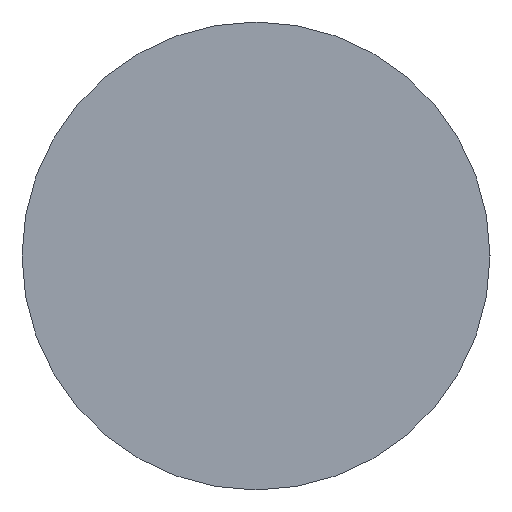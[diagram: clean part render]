
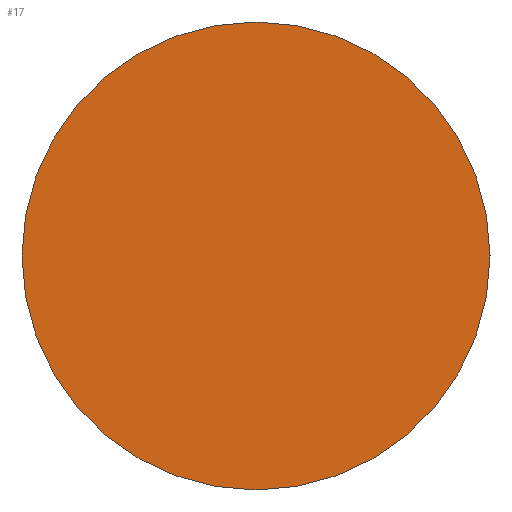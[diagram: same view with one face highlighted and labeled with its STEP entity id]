
A CAD part, left-side view. The second image highlights one B-rep face of the part: STEP entity #17.
In plain terms, the highlighted planar face has unit normal (-1, 0, 0).
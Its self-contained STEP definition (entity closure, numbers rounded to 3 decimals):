
#17 = ADVANCED_FACE('',(#18),#31,.F.);
#18 = FACE_BOUND('',#19,.T.);
#19 = EDGE_LOOP('',(#20));
#20 = ORIENTED_EDGE('',*,*,#21,.F.);
#21 = EDGE_CURVE('',#22,#22,#24,.T.);
#22 = VERTEX_POINT('',#23);
#23 = CARTESIAN_POINT('',(-12.5,8.5,0.));
#24 = SURFACE_CURVE('',#25,(#30,#42),.PCURVE_S1.);
#25 = CIRCLE('',#26,8.5);
#26 = AXIS2_PLACEMENT_3D('',#27,#28,#29);
#27 = CARTESIAN_POINT('',(-12.5,0.,0.));
#28 = DIRECTION('',(1.,0.,0.));
#29 = DIRECTION('',(-0.,1.,0.));
#30 = PCURVE('',#31,#36);
#31 = PLANE('',#32);
#32 = AXIS2_PLACEMENT_3D('',#33,#34,#35);
#33 = CARTESIAN_POINT('',(-12.5,0.,0.));
#34 = DIRECTION('',(1.,0.,0.));
#35 = DIRECTION('',(-0.,1.,0.));
#36 = DEFINITIONAL_REPRESENTATION('',(#37),#41);
#37 = CIRCLE('',#38,8.5);
#38 = AXIS2_PLACEMENT_2D('',#39,#40);
#39 = CARTESIAN_POINT('',(0.,0.));
#40 = DIRECTION('',(1.,-0.));
#41 = ( GEOMETRIC_REPRESENTATION_CONTEXT(2) 
PARAMETRIC_REPRESENTATION_CONTEXT() REPRESENTATION_CONTEXT('2D SPACE',''
  ) );
#42 = PCURVE('',#43,#48);
#43 = CYLINDRICAL_SURFACE('',#44,8.5);
#44 = AXIS2_PLACEMENT_3D('',#45,#46,#47);
#45 = CARTESIAN_POINT('',(-12.5,0.,0.));
#46 = DIRECTION('',(1.,0.,0.));
#47 = DIRECTION('',(-0.,1.,0.));
#48 = DEFINITIONAL_REPRESENTATION('',(#49),#53);
#49 = LINE('',#50,#51);
#50 = CARTESIAN_POINT('',(0.,0.));
#51 = VECTOR('',#52,1.);
#52 = DIRECTION('',(1.,0.));
#53 = ( GEOMETRIC_REPRESENTATION_CONTEXT(2) 
PARAMETRIC_REPRESENTATION_CONTEXT() REPRESENTATION_CONTEXT('2D SPACE',''
  ) );
